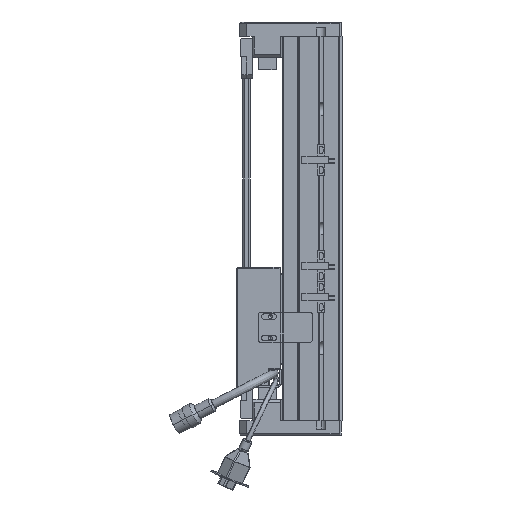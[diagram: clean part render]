
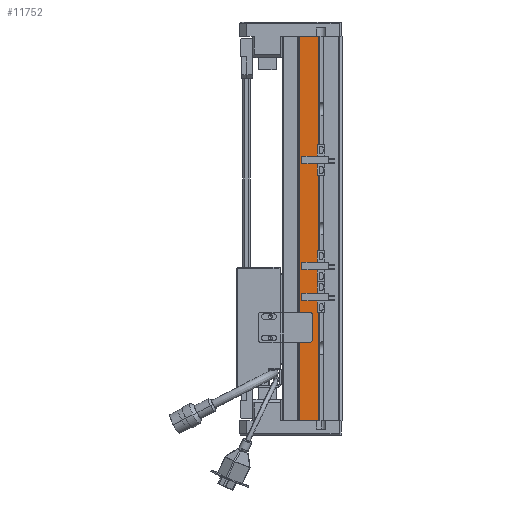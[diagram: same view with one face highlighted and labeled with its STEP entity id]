
A CAD part, left-side view. The second image highlights one B-rep face of the part: STEP entity #11752.
In plain terms, the highlighted planar face has unit normal (-1, 0, 0).
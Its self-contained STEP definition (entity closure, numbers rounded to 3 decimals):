
#570 = LINE ( 'NONE', #59551, #37532 ) ;
#1309 = DIRECTION ( 'NONE',  ( 0., -1., 0. ) ) ;
#3554 = VERTEX_POINT ( 'NONE', #38486 ) ;
#4727 = ORIENTED_EDGE ( 'NONE', *, *, #14644, .F. ) ;
#9613 = CARTESIAN_POINT ( 'NONE',  ( 3198.78, 1447.968, 0. ) ) ;
#11648 = DIRECTION ( 'NONE',  ( 1., 0., 0. ) ) ;
#11752 = ADVANCED_FACE ( 'NONE', ( #48536 ), #26651, .F. ) ;
#11783 = CARTESIAN_POINT ( 'NONE',  ( 3198.78, 1464.268, 0. ) ) ;
#12582 = VERTEX_POINT ( 'NONE', #30979 ) ;
#13562 = CARTESIAN_POINT ( 'NONE',  ( 3198.78, 1464.268, 321. ) ) ;
#14644 = EDGE_CURVE ( 'NONE', #12582, #54659, #62494, .T. ) ;
#16925 = CARTESIAN_POINT ( 'NONE',  ( 3198.78, 1464.268, 321. ) ) ;
#18642 = DIRECTION ( 'NONE',  ( 0., 0., -1. ) ) ;
#21158 = CARTESIAN_POINT ( 'NONE',  ( 3198.78, 1464.268, 0. ) ) ;
#21906 = LINE ( 'NONE', #21158, #55639 ) ;
#22025 = DIRECTION ( 'NONE',  ( 0., 1., 0. ) ) ;
#24626 = DIRECTION ( 'NONE',  ( 0., -1., 0. ) ) ;
#25680 = CARTESIAN_POINT ( 'NONE',  ( 3198.78, 1447.968, 321. ) ) ;
#26651 = PLANE ( 'NONE',  #47275 ) ;
#30979 = CARTESIAN_POINT ( 'NONE',  ( 3198.78, 1447.968, 321. ) ) ;
#37041 = ORIENTED_EDGE ( 'NONE', *, *, #58848, .T. ) ;
#37532 = VECTOR ( 'NONE', #24626, 1000. ) ;
#38486 = CARTESIAN_POINT ( 'NONE',  ( 3198.78, 1464.268, 321. ) ) ;
#44607 = EDGE_LOOP ( 'NONE', ( #45899, #4727, #61470, #37041 ) ) ;
#45447 = EDGE_CURVE ( 'NONE', #57782, #54659, #21906, .T. ) ;
#45899 = ORIENTED_EDGE ( 'NONE', *, *, #45447, .T. ) ;
#47275 = AXIS2_PLACEMENT_3D ( 'NONE', #16925, #11648, #22025 ) ;
#48536 = FACE_OUTER_BOUND ( 'NONE', #44607, .T. ) ;
#49129 = VECTOR ( 'NONE', #60838, 1000. ) ;
#50010 = LINE ( 'NONE', #13562, #57039 ) ;
#54659 = VERTEX_POINT ( 'NONE', #9613 ) ;
#55488 = EDGE_CURVE ( 'NONE', #3554, #12582, #570, .T. ) ;
#55639 = VECTOR ( 'NONE', #1309, 1000. ) ;
#57039 = VECTOR ( 'NONE', #18642, 1000. ) ;
#57782 = VERTEX_POINT ( 'NONE', #11783 ) ;
#58848 = EDGE_CURVE ( 'NONE', #3554, #57782, #50010, .T. ) ;
#59551 = CARTESIAN_POINT ( 'NONE',  ( 3198.78, 1464.268, 321. ) ) ;
#60838 = DIRECTION ( 'NONE',  ( 0., 0., -1. ) ) ;
#61470 = ORIENTED_EDGE ( 'NONE', *, *, #55488, .F. ) ;
#62494 = LINE ( 'NONE', #25680, #49129 ) ;
